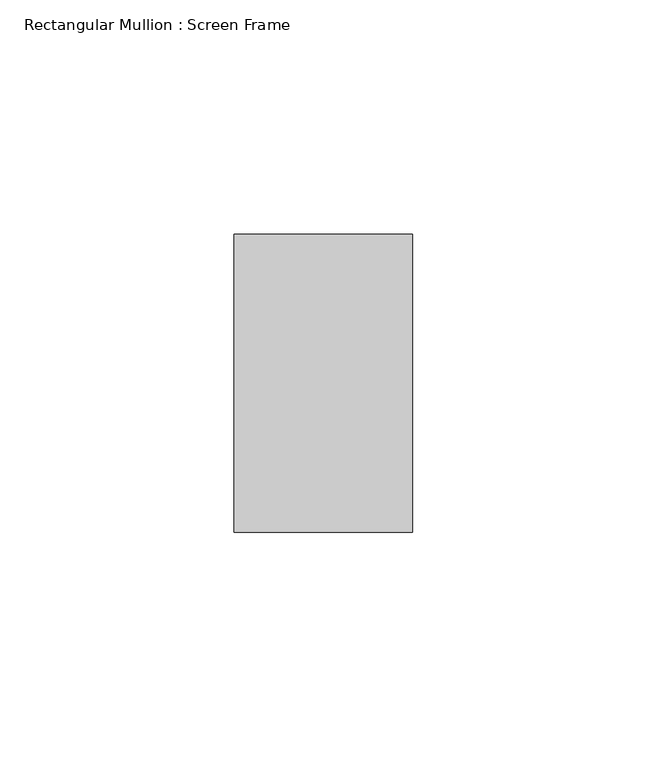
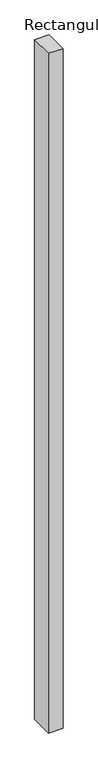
"""IFC4 building model written with IfcOpenShell, lengths in millimetres: member geometry, Rectangular Mullion : Screen Frame."""

from ifc_helpers import new_model, si_unit, frame, origin, place, context, project, spatial, polyline, outline, extrude, source, transform, mapped, element, save


def rectangular_mullion_screen_frame_2d25939d(model_context):
    return source(origin(), model_context, "Body", "SweptSolid", [
        extrude(outline(polyline([(0.0, 31.75), (0.0, -31.75), (-38.1, -31.75), (-38.1, 31.75), (0.0, 31.75)])), frame((0.0, 0.0, -1896.8042667), z_axis=(0.0, 0.0, 1.0), x_axis=(1.0, 0.0, 0.0)), (0.0, 0.0, 1.0), 1896.8042667),
    ])


if __name__ == "__main__":
    model = new_model("IFC4")
    model_context = context("Model", 3, world=origin())
    ifc_project = project(units=[si_unit("LENGTHUNIT", "METRE", prefix="MILLI")], contexts=[model_context])
    site = spatial("IfcSite", under=ifc_project)
    building = spatial("IfcBuilding", under=site)
    placement = place(None, origin())
    rectangular_mullion_screen_frame_shape = rectangular_mullion_screen_frame_2d25939d(model_context)
    element("IfcMember", 1, ObjectType="Rectangular Mullion : Screen Frame", at=placement, inside=building, context=model_context, shape_type="MappedRepresentation", body=[
        mapped(rectangular_mullion_screen_frame_shape, transform((0.0, 0.0, 0.0), x_axis=(1.0, 0.0, 0.0), y_axis=(0.0, 1.0, 0.0), z_axis=(0.0, 0.0, 1.0))),
    ])
    save(model, "model.ifc")
